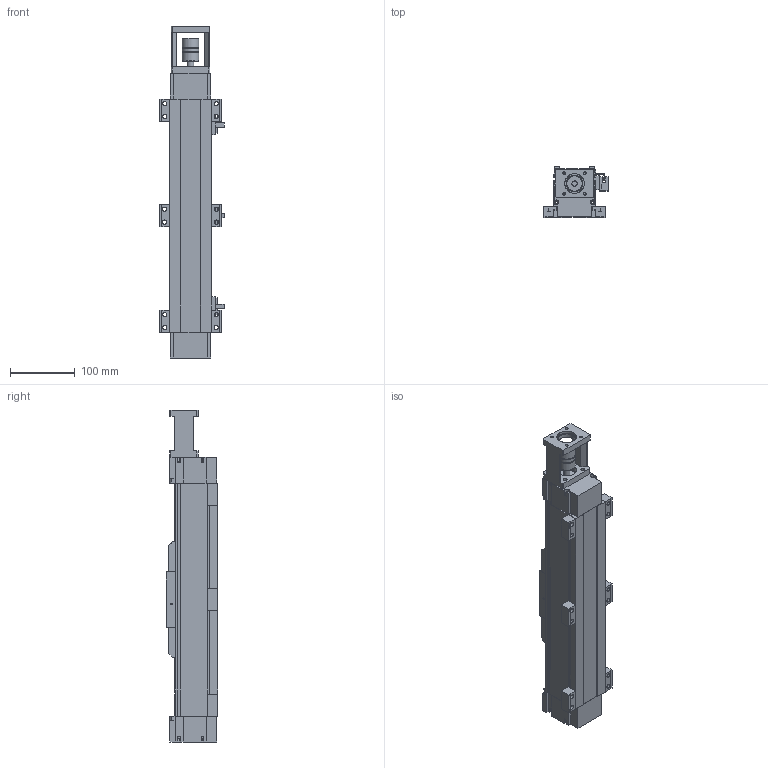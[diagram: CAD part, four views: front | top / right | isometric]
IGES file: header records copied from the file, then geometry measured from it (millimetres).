
Start section: SolidWorks IGES file using analytic representation for surfaces
Bounding box: 99.28 x 79 x 513 mm (x, y, z)
Surface area: 294465.5 mm2 (no closed solid volume)
Topology: 0 solids, 0 shells, 987 faces, 10842 edges, 10802 vertices
Faces by surface type: bspline 731, revolution 256
